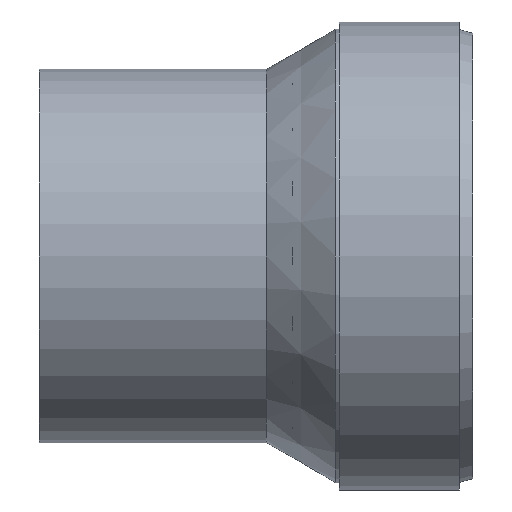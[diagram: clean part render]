
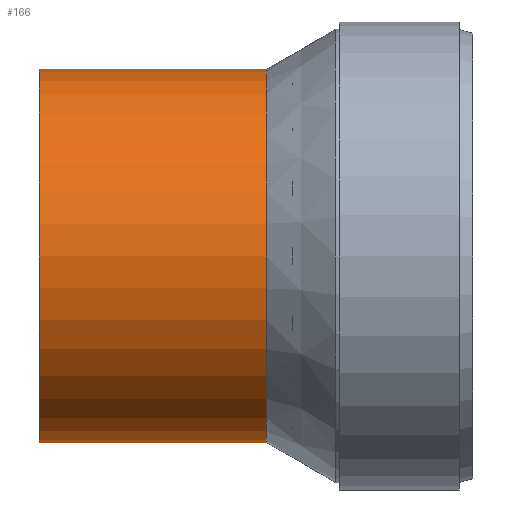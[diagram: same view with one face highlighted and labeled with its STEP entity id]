
A CAD part, front view. The second image highlights one B-rep face of the part: STEP entity #166.
In plain terms, the highlighted cylindrical face has radius 28 mm (diameter 56 mm), a full revolution.
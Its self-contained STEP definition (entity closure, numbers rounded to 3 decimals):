
#25=CYLINDRICAL_SURFACE($,#195,28.);
#39=FACE_BOUND($,#76,.T.);
#53=FACE_OUTER_BOUND($,#75,.T.);
#75=EDGE_LOOP($,(#145));
#76=EDGE_LOOP($,(#146));
#89=CIRCLE($,#184,28.);
#94=CIRCLE($,#194,28.);
#103=VERTEX_POINT($,#277);
#108=VERTEX_POINT($,#292);
#117=EDGE_CURVE($,#103,#103,#89,.T.);
#122=EDGE_CURVE($,#108,#108,#94,.T.);
#145=ORIENTED_EDGE($,*,*,#117,.F.);
#146=ORIENTED_EDGE($,*,*,#122,.T.);
#166=ADVANCED_FACE($,(#53,#39),#25,.T.);
#184=AXIS2_PLACEMENT_3D($,#278,#225,#226);
#194=AXIS2_PLACEMENT_3D($,#293,#245,#246);
#195=AXIS2_PLACEMENT_3D($,#294,#247,#248);
#225=DIRECTION('center_axis',(1.,0.,0.));
#226=DIRECTION('ref_axis',(0.,1.,0.));
#245=DIRECTION('center_axis',(1.,0.,0.));
#246=DIRECTION('ref_axis',(0.,1.,0.));
#247=DIRECTION('center_axis',(1.,0.,0.));
#248=DIRECTION('ref_axis',(0.,1.,0.));
#277=CARTESIAN_POINT('',(34.,28.,0.));
#278=CARTESIAN_POINT('Origin',(34.,0.,0.));
#292=CARTESIAN_POINT('',(0.,28.,0.));
#293=CARTESIAN_POINT('Origin',(0.,0.,
0.));
#294=CARTESIAN_POINT('Origin',(17.,0.,0.));
